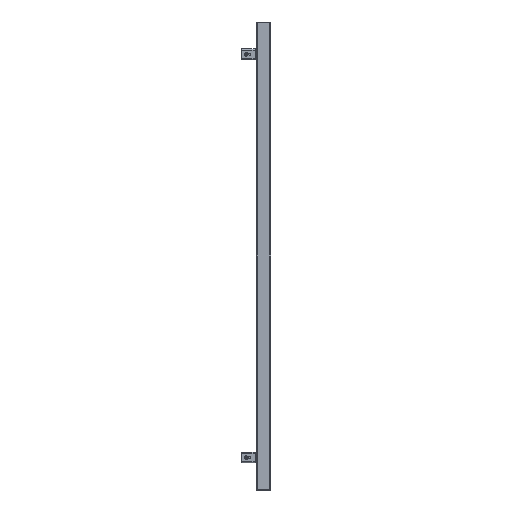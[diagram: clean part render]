
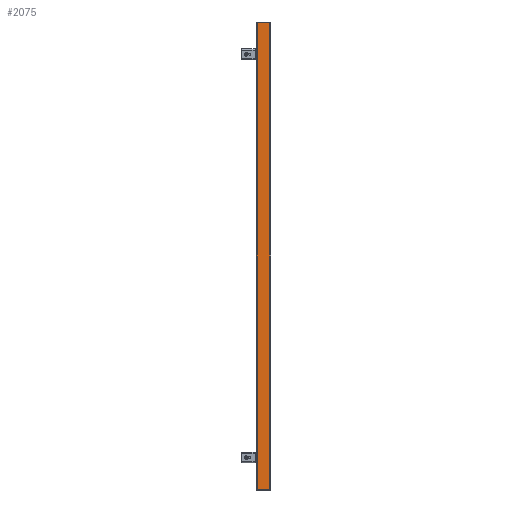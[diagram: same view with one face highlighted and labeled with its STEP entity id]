
A CAD part, left-side view. The second image highlights one B-rep face of the part: STEP entity #2075.
In plain terms, the highlighted planar face has unit normal (-1, 0, 0).
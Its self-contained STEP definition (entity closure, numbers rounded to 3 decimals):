
#1726=CARTESIAN_POINT('',(-290.0,-17.,1.5));
#1727=VERTEX_POINT('',#1726);
#1878=CARTESIAN_POINT('',(-290.0,17.,1.5));
#1879=VERTEX_POINT('',#1878);
#1896=CARTESIAN_POINT('',(-290.0,-17.,1.5));
#1897=DIRECTION('',(0.0,1.0,0.0));
#1898=VECTOR('',#1897,34.0);
#1899=LINE('',#1896,#1898);
#1900=EDGE_CURVE('',#1727,#1879,#1899,.T.);
#2045=CARTESIAN_POINT('',(-290.0,-17.,0.0));
#2046=DIRECTION('',(-1.0,0.0,0.0));
#2047=DIRECTION('',(0.0,0.0,1.0));
#2048=AXIS2_PLACEMENT_3D('',#2045,#2046,#2047);
#2049=PLANE('',#2048);
#2050=ORIENTED_EDGE('',*,*,#1900,.F.);
#2051=CARTESIAN_POINT('',(-290.0,-17.,1298.5));
#2052=VERTEX_POINT('',#2051);
#2053=CARTESIAN_POINT('',(-290.0,-17.,1.5));
#2054=DIRECTION('',(0.0,0.0,1.0));
#2055=VECTOR('',#2054,1297.0);
#2056=LINE('',#2053,#2055);
#2057=EDGE_CURVE('',#1727,#2052,#2056,.T.);
#2058=ORIENTED_EDGE('',*,*,#2057,.T.);
#2059=CARTESIAN_POINT('',(-290.0,17.,1298.5));
#2060=VERTEX_POINT('',#2059);
#2061=CARTESIAN_POINT('',(-290.0,17.,1298.5));
#2062=DIRECTION('',(0.0,-1.0,0.0));
#2063=VECTOR('',#2062,34.0);
#2064=LINE('',#2061,#2063);
#2065=EDGE_CURVE('',#2060,#2052,#2064,.T.);
#2066=ORIENTED_EDGE('',*,*,#2065,.F.);
#2067=CARTESIAN_POINT('',(-290.0,17.,1.5));
#2068=DIRECTION('',(0.0,0.0,1.0));
#2069=VECTOR('',#2068,1297.0);
#2070=LINE('',#2067,#2069);
#2071=EDGE_CURVE('',#1879,#2060,#2070,.T.);
#2072=ORIENTED_EDGE('',*,*,#2071,.F.);
#2073=EDGE_LOOP('',(#2050,#2058,#2066,#2072));
#2074=FACE_OUTER_BOUND('',#2073,.T.);
#2075=ADVANCED_FACE('',(#2074),#2049,.T.);
